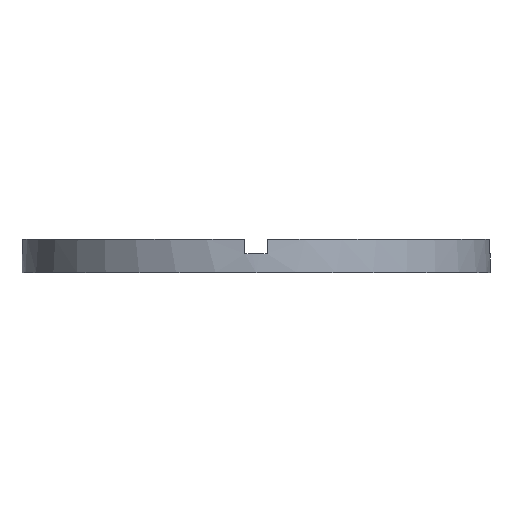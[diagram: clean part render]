
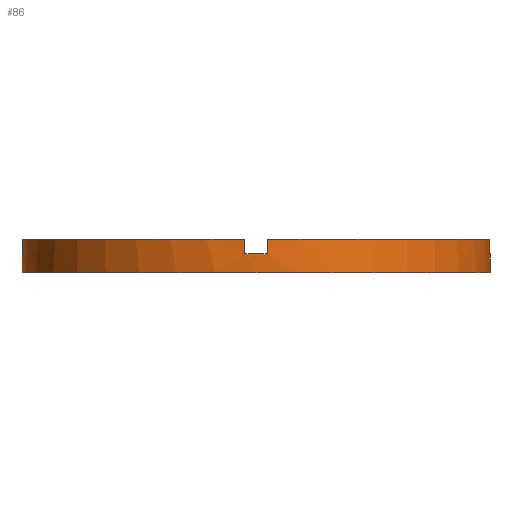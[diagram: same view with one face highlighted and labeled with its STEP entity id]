
A CAD part, front view. The second image highlights one B-rep face of the part: STEP entity #86.
In plain terms, the highlighted cylindrical face has radius 10.5 mm (diameter 21 mm), a partial arc.
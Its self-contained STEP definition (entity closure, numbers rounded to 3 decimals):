
#4 = ORIENTED_EDGE ( 'NONE', *, *, #252, .F. ) ;
#7 = FACE_OUTER_BOUND ( 'NONE', #345, .T. ) ;
#13 = DIRECTION ( 'NONE',  ( 1., 0., 0. ) ) ;
#17 = DIRECTION ( 'NONE',  ( 0., 0., 1. ) ) ;
#18 = CARTESIAN_POINT ( 'NONE',  ( 0., 0., 1.5 ) ) ;
#30 = LINE ( 'NONE', #541, #532 ) ;
#31 = VERTEX_POINT ( 'NONE', #225 ) ;
#41 = CARTESIAN_POINT ( 'NONE',  ( -10.488, -0.5, 0.85 ) ) ;
#43 = EDGE_CURVE ( 'NONE', #31, #745, #97, .T. ) ;
#58 = ORIENTED_EDGE ( 'NONE', *, *, #115, .F. ) ;
#60 = AXIS2_PLACEMENT_3D ( 'NONE', #291, #632, #689 ) ;
#69 = VECTOR ( 'NONE', #277, 1000. ) ;
#75 = DIRECTION ( 'NONE',  ( 0., 0., 1. ) ) ;
#82 = CIRCLE ( 'NONE', #359, 10.5 ) ;
#85 = DIRECTION ( 'NONE',  ( 1., 0., 0. ) ) ;
#86 = ADVANCED_FACE ( 'NONE', ( #7 ), #416, .T. ) ;
#88 = DIRECTION ( 'NONE',  ( 1., 0., 0. ) ) ;
#97 = CIRCLE ( 'NONE', #60, 10.5 ) ;
#106 = ORIENTED_EDGE ( 'NONE', *, *, #509, .T. ) ;
#110 = AXIS2_PLACEMENT_3D ( 'NONE', #595, #396, #334 ) ;
#115 = EDGE_CURVE ( 'NONE', #408, #555, #675, .T. ) ;
#117 = EDGE_CURVE ( 'NONE', #125, #216, #741, .T. ) ;
#124 = DIRECTION ( 'NONE',  ( 0., 0., -1. ) ) ;
#125 = VERTEX_POINT ( 'NONE', #559 ) ;
#136 = DIRECTION ( 'NONE',  ( 0., 0., 1. ) ) ;
#139 = CIRCLE ( 'NONE', #635, 10.5 ) ;
#140 = CARTESIAN_POINT ( 'NONE',  ( -0.5, -10.488, 0.85 ) ) ;
#160 = CARTESIAN_POINT ( 'NONE',  ( 10.5, 0., 0.85 ) ) ;
#186 = ORIENTED_EDGE ( 'NONE', *, *, #117, .F. ) ;
#189 = ORIENTED_EDGE ( 'NONE', *, *, #255, .F. ) ;
#191 = LINE ( 'NONE', #140, #551 ) ;
#198 = CARTESIAN_POINT ( 'NONE',  ( 0., 0., 1.5 ) ) ;
#201 = CARTESIAN_POINT ( 'NONE',  ( 0.5, -10.488, 1.5 ) ) ;
#209 = DIRECTION ( 'NONE',  ( 0., 0., -1. ) ) ;
#212 = EDGE_CURVE ( 'NONE', #422, #408, #680, .T. ) ;
#214 = CARTESIAN_POINT ( 'NONE',  ( -0.5, -10.488, 1.5 ) ) ;
#216 = VERTEX_POINT ( 'NONE', #160 ) ;
#225 = CARTESIAN_POINT ( 'NONE',  ( -10.5, 0., 0. ) ) ;
#232 = AXIS2_PLACEMENT_3D ( 'NONE', #529, #136, #85 ) ;
#252 = EDGE_CURVE ( 'NONE', #216, #745, #579, .T. ) ;
#255 = EDGE_CURVE ( 'NONE', #488, #381, #139, .T. ) ;
#257 = CARTESIAN_POINT ( 'NONE',  ( -0.5, -10.488, 0.85 ) ) ;
#265 = CARTESIAN_POINT ( 'NONE',  ( 10.5, 0., 0. ) ) ;
#276 = LINE ( 'NONE', #325, #625 ) ;
#277 = DIRECTION ( 'NONE',  ( 0., 0., 1. ) ) ;
#284 = CARTESIAN_POINT ( 'NONE',  ( -10.488, -0.5, 1.5 ) ) ;
#291 = CARTESIAN_POINT ( 'NONE',  ( 0., 0., 0. ) ) ;
#325 = CARTESIAN_POINT ( 'NONE',  ( -10.5, 0., 1.5 ) ) ;
#334 = DIRECTION ( 'NONE',  ( -1., 0., 0. ) ) ;
#343 = VECTOR ( 'NONE', #638, 1000. ) ;
#345 = EDGE_LOOP ( 'NONE', ( #4, #186, #581, #534, #711, #189, #106, #58, #519, #562, #626, #350 ) ) ;
#350 = ORIENTED_EDGE ( 'NONE', *, *, #43, .T. ) ;
#359 = AXIS2_PLACEMENT_3D ( 'NONE', #18, #75, #13 ) ;
#381 = VERTEX_POINT ( 'NONE', #556 ) ;
#390 = DIRECTION ( 'NONE',  ( 0., 0., 1. ) ) ;
#396 = DIRECTION ( 'NONE',  ( 0., 0., -1. ) ) ;
#408 = VERTEX_POINT ( 'NONE', #284 ) ;
#414 = EDGE_CURVE ( 'NONE', #125, #570, #502, .T. ) ;
#416 = CYLINDRICAL_SURFACE ( 'NONE', #110, 10.5 ) ;
#422 = VERTEX_POINT ( 'NONE', #553 ) ;
#427 = CARTESIAN_POINT ( 'NONE',  ( -10.5, 0., 0.85 ) ) ;
#438 = DIRECTION ( 'NONE',  ( 0., 0., 1. ) ) ;
#441 = DIRECTION ( 'NONE',  ( 1., 0., 0. ) ) ;
#446 = CARTESIAN_POINT ( 'NONE',  ( 0., 0., 0.85 ) ) ;
#475 = CIRCLE ( 'NONE', #232, 10.5 ) ;
#477 = DIRECTION ( 'NONE',  ( 1., 0., 0. ) ) ;
#480 = EDGE_CURVE ( 'NONE', #695, #31, #276, .T. ) ;
#488 = VERTEX_POINT ( 'NONE', #257 ) ;
#502 = LINE ( 'NONE', #742, #343 ) ;
#509 = EDGE_CURVE ( 'NONE', #488, #555, #191, .T. ) ;
#514 = AXIS2_PLACEMENT_3D ( 'NONE', #198, #390, #88 ) ;
#519 = ORIENTED_EDGE ( 'NONE', *, *, #212, .F. ) ;
#529 = CARTESIAN_POINT ( 'NONE',  ( 0., 0., 0.85 ) ) ;
#531 = VECTOR ( 'NONE', #124, 1000. ) ;
#532 = VECTOR ( 'NONE', #663, 1000. ) ;
#534 = ORIENTED_EDGE ( 'NONE', *, *, #701, .F. ) ;
#539 = CARTESIAN_POINT ( 'NONE',  ( 10.5, 0., 1.5 ) ) ;
#541 = CARTESIAN_POINT ( 'NONE',  ( 0.5, -10.488, 0.85 ) ) ;
#551 = VECTOR ( 'NONE', #656, 1000. ) ;
#553 = CARTESIAN_POINT ( 'NONE',  ( -10.488, -0.5, 0.85 ) ) ;
#555 = VERTEX_POINT ( 'NONE', #214 ) ;
#556 = CARTESIAN_POINT ( 'NONE',  ( 0.5, -10.488, 0.85 ) ) ;
#559 = CARTESIAN_POINT ( 'NONE',  ( 10.488, -0.5, 0.85 ) ) ;
#562 = ORIENTED_EDGE ( 'NONE', *, *, #729, .F. ) ;
#570 = VERTEX_POINT ( 'NONE', #598 ) ;
#579 = LINE ( 'NONE', #539, #531 ) ;
#581 = ORIENTED_EDGE ( 'NONE', *, *, #414, .T. ) ;
#595 = CARTESIAN_POINT ( 'NONE',  ( 0., 0., 1.5 ) ) ;
#598 = CARTESIAN_POINT ( 'NONE',  ( 10.488, -0.5, 1.5 ) ) ;
#617 = EDGE_CURVE ( 'NONE', #381, #655, #30, .T. ) ;
#625 = VECTOR ( 'NONE', #209, 1000. ) ;
#626 = ORIENTED_EDGE ( 'NONE', *, *, #480, .T. ) ;
#632 = DIRECTION ( 'NONE',  ( 0., 0., 1. ) ) ;
#635 = AXIS2_PLACEMENT_3D ( 'NONE', #652, #17, #477 ) ;
#638 = DIRECTION ( 'NONE',  ( 0., 0., 1. ) ) ;
#652 = CARTESIAN_POINT ( 'NONE',  ( 0., 0., 0.85 ) ) ;
#655 = VERTEX_POINT ( 'NONE', #201 ) ;
#656 = DIRECTION ( 'NONE',  ( 0., 0., 1. ) ) ;
#663 = DIRECTION ( 'NONE',  ( 0., 0., 1. ) ) ;
#675 = CIRCLE ( 'NONE', #514, 10.5 ) ;
#680 = LINE ( 'NONE', #41, #69 ) ;
#689 = DIRECTION ( 'NONE',  ( 1., 0., 0. ) ) ;
#695 = VERTEX_POINT ( 'NONE', #427 ) ;
#698 = AXIS2_PLACEMENT_3D ( 'NONE', #446, #438, #441 ) ;
#701 = EDGE_CURVE ( 'NONE', #655, #570, #82, .T. ) ;
#711 = ORIENTED_EDGE ( 'NONE', *, *, #617, .F. ) ;
#729 = EDGE_CURVE ( 'NONE', #695, #422, #475, .T. ) ;
#741 = CIRCLE ( 'NONE', #698, 10.5 ) ;
#742 = CARTESIAN_POINT ( 'NONE',  ( 10.488, -0.5, 0.85 ) ) ;
#745 = VERTEX_POINT ( 'NONE', #265 ) ;
